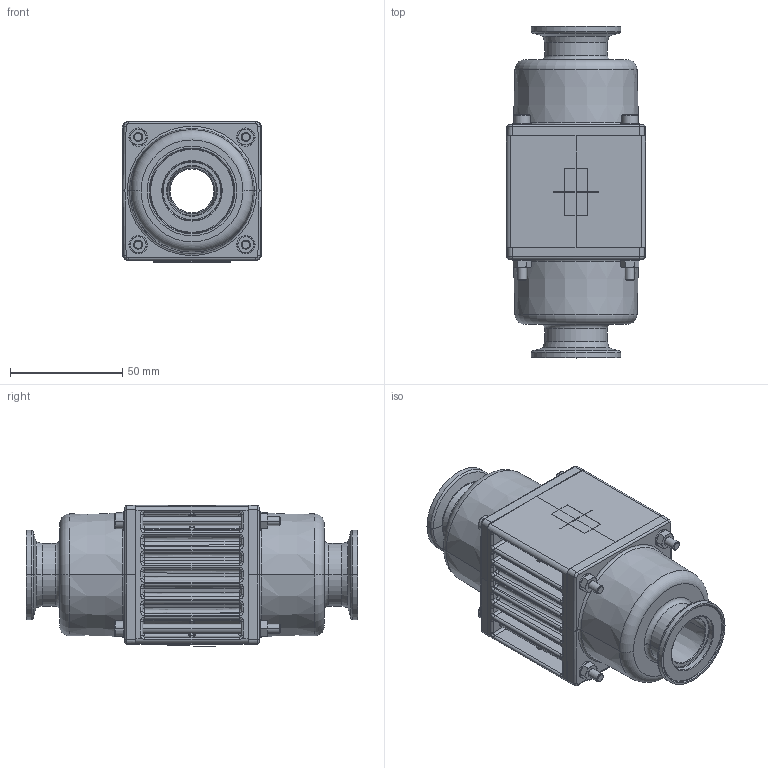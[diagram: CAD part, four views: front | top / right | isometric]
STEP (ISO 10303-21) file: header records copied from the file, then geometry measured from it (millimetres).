
FILE_DESCRIPTION((''),'2;1');
FILE_NAME('109873_SILENCIEUX_ES25S','2011-05-23T',('JMOREL'),(''),'PRO/ENGINEER BY PARAMETRIC TECHNOLOGY CORPORATION, 2010230','PRO/ENGINEER BY PARAMETRIC TECHNOLOGY CORPORATION, 2010230','');
FILE_SCHEMA(('CONFIG_CONTROL_DESIGN'));
Products named in the file (1): 109873_SILENCIEUX_ES25S
Bounding box: 62 x 148 x 63.2 mm (x, y, z)
Volume: 133887.3 mm3; surface area: 92319.5 mm2
Topology: 4 solids, 6 shells, 1262 faces, 3029 edges, 1866 vertices
Faces by surface type: plane 488, cylinder 220, bspline 180, cone 156, torus 142, extrusion 76
Entity records: 51080 total; most frequent: CARTESIAN_POINT 23718, ORIENTED_EDGE 6058, DIRECTION 5011, EDGE_CURVE 3029, VERTEX_POINT 1866, AXIS2_PLACEMENT_3D 1844, EDGE_LOOP 1363, VECTOR 1323
